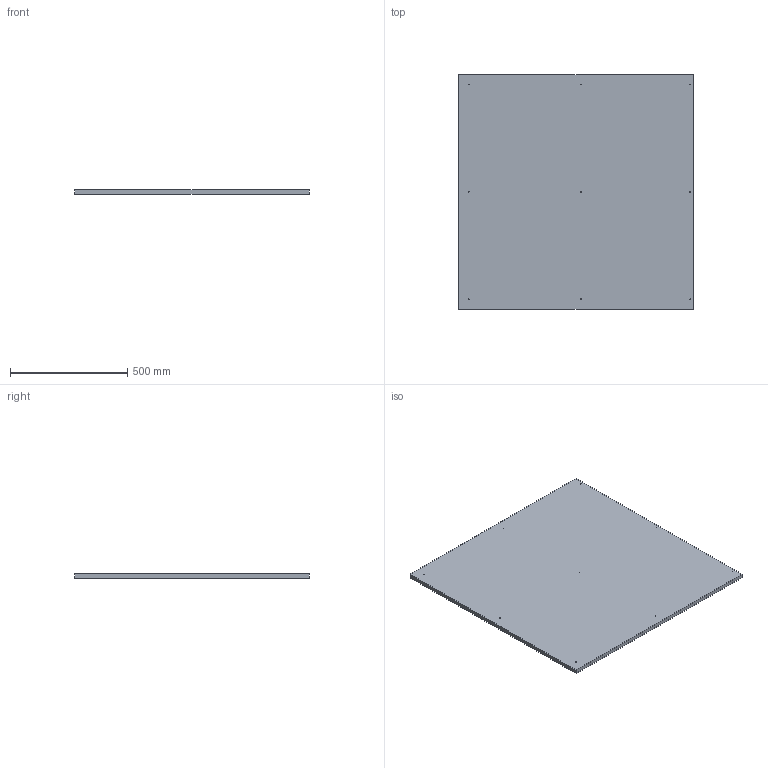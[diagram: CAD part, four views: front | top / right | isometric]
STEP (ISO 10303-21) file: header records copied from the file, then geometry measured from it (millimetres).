
FILE_DESCRIPTION(('Open CASCADE Model'),'2;1');
FILE_NAME('Open CASCADE Shape Model','2026-09-28T10:13:54',('Author'),( 'Open CASCADE'),'Open CASCADE STEP processor 7.9','Open CASCADE 7.9' ,'Unknown');
FILE_SCHEMA(('AUTOMOTIVE_DESIGN { 1 0 10303 214 1 1 1 1 }'));
Length unit declared in the file: millimetre
Products named in the file (1): Open CASCADE STEP translator 7.9 4
Bounding box: 1000 x 1000 x 18 mm (x, y, z)
Volume: 17999204.8 mm3; surface area: 2073184 mm2
Topology: 1 solids, 1 shells, 15 faces, 39 edges, 26 vertices
Faces by surface type: cylinder 9, plane 6
Full cylindrical faces by diameter (mm): 2.5 x9
Entity records: 1024 total; most frequent: DIRECTION 167, CARTESIAN_POINT 159, LINE 81, VECTOR 81, ORIENTED_EDGE 78, PCURVE 78, DEFINITIONAL_REPRESENTATION 78, EDGE_CURVE 39
